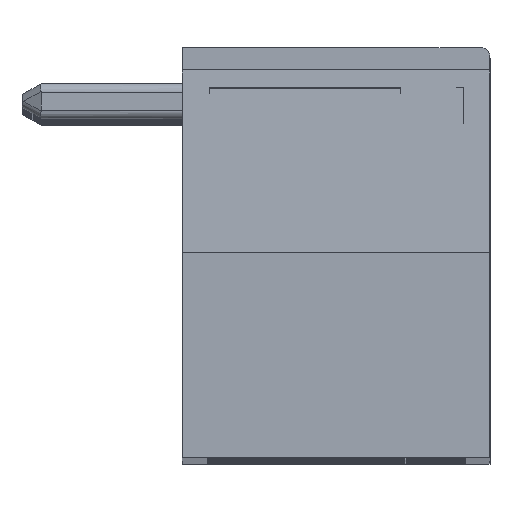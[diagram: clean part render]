
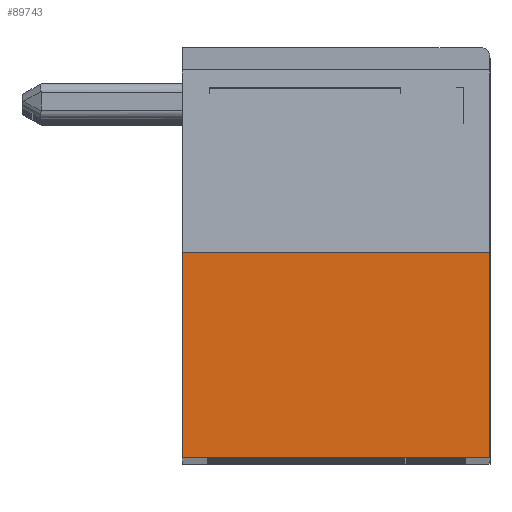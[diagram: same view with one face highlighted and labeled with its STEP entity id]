
A CAD part, top view. The second image highlights one B-rep face of the part: STEP entity #89743.
In plain terms, the highlighted planar face has unit normal (0, 0, 1).
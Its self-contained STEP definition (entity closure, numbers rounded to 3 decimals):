
#15212 = DIRECTION ( 'NONE',  ( -1., 0., 0. ) ) ;
#15213 = VECTOR ( 'NONE', #15212, 1000. ) ;
#15214 = CARTESIAN_POINT ( 'NONE',  ( 3.4, -9.2, 0. ) ) ;
#15215 = LINE ( 'NONE', #15214, #15213 ) ;
#15321 = CARTESIAN_POINT ( 'NONE',  ( 6.9, -9.2, 0. ) ) ;
#30095 = DIRECTION ( 'NONE',  ( 0., -1., 0. ) ) ;
#30096 = VECTOR ( 'NONE', #30095, 1000. ) ;
#30097 = CARTESIAN_POINT ( 'NONE',  ( 6.9, 0., 0. ) ) ;
#30098 = LINE ( 'NONE', #30097, #30096 ) ;
#30099 = CARTESIAN_POINT ( 'NONE',  ( 6.9, -4.6, 0. ) ) ;
#33358 = DIRECTION ( 'NONE',  ( -1., 0., 0. ) ) ;
#33360 = VECTOR ( 'NONE', #33358, 1000. ) ;
#33362 = CARTESIAN_POINT ( 'NONE',  ( 6.9, -4.6, 0. ) ) ;
#33363 = LINE ( 'NONE', #33362, #33360 ) ;
#33445 = FACE_OUTER_BOUND ( 'NONE', #89744, .T. ) ;
#33560 = DIRECTION ( 'NONE',  ( 1., 0., 0. ) ) ;
#33562 = DIRECTION ( 'NONE',  ( 0., 0., 1. ) ) ;
#33563 = CARTESIAN_POINT ( 'NONE',  ( 6.9, -4.6, 0. ) ) ;
#33564 = AXIS2_PLACEMENT_3D ( 'NONE', #33563, #33562, #33560 ) ;
#33565 = PLANE ( 'NONE',  #33564 ) ;
#63661 = VERTEX_POINT ( 'NONE', #137821 ) ;
#63712 = EDGE_CURVE ( 'NONE', #63714, #63661, #137869, .T. ) ;
#63714 = VERTEX_POINT ( 'NONE', #137865 ) ;
#80638 = EDGE_CURVE ( 'NONE', #80673, #63661, #15215, .T. ) ;
#80673 = VERTEX_POINT ( 'NONE', #15321 ) ;
#88583 = VERTEX_POINT ( 'NONE', #30099 ) ;
#88587 = EDGE_CURVE ( 'NONE', #88583, #80673, #30098, .T. ) ;
#89690 = EDGE_CURVE ( 'NONE', #88583, #63714, #33363, .T. ) ;
#89743 = ADVANCED_FACE ( 'NONE', ( #33445 ), #33565, .T. ) ;
#89744 = EDGE_LOOP ( 'NONE', ( #89745, #89746, #89749, #89751 ) ) ;
#89745 = ORIENTED_EDGE ( 'NONE', *, *, #63712, .T. ) ;
#89746 = ORIENTED_EDGE ( 'NONE', *, *, #80638, .F. ) ;
#89749 = ORIENTED_EDGE ( 'NONE', *, *, #88587, .F. ) ;
#89751 = ORIENTED_EDGE ( 'NONE', *, *, #89690, .T. ) ;
#137821 = CARTESIAN_POINT ( 'NONE',  ( 0., -9.2, 0. ) ) ;
#137865 = CARTESIAN_POINT ( 'NONE',  ( 0., -4.6, 0. ) ) ;
#137866 = DIRECTION ( 'NONE',  ( 0., -1., 0. ) ) ;
#137867 = VECTOR ( 'NONE', #137866, 1000. ) ;
#137868 = CARTESIAN_POINT ( 'NONE',  ( 0., -4.6, 0. ) ) ;
#137869 = LINE ( 'NONE', #137868, #137867 ) ;
